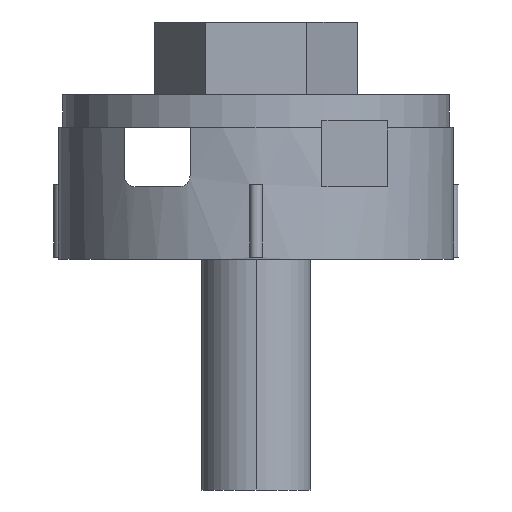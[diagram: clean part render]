
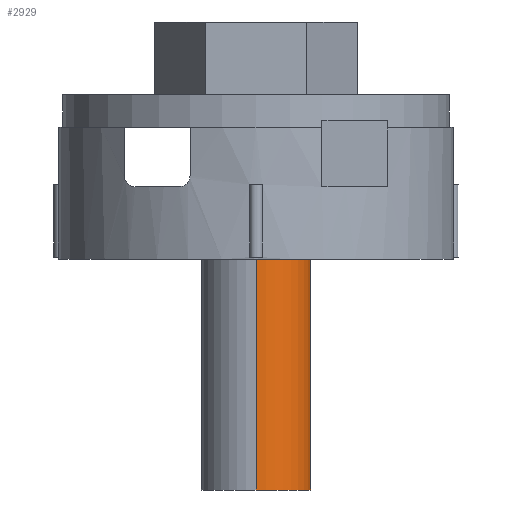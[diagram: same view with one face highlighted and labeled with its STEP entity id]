
A CAD part, front view. The second image highlights one B-rep face of the part: STEP entity #2929.
In plain terms, the highlighted cylindrical face has radius 2.5 mm (diameter 5 mm), a partial arc.
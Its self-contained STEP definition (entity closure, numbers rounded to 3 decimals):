
#2858 = ORIENTED_EDGE ( 'NONE', *, *, #2927, .T. ) ;
#2859 = ORIENTED_EDGE ( 'NONE', *, *, #2932, .F. ) ;
#2860 = VERTEX_POINT ( 'NONE', #7548 ) ;
#2861 = VERTEX_POINT ( 'NONE', #7547 ) ;
#2912 = VERTEX_POINT ( 'NONE', #7643 ) ;
#2918 = VERTEX_POINT ( 'NONE', #7689 ) ;
#2919 = EDGE_CURVE ( 'NONE', #2918, #2912, #7688, .T. ) ;
#2921 = EDGE_CURVE ( 'NONE', #2860, #2912, #7683, .T. ) ;
#2925 = ORIENTED_EDGE ( 'NONE', *, *, #2919, .T. ) ;
#2926 = ORIENTED_EDGE ( 'NONE', *, *, #2921, .F. ) ;
#2927 = EDGE_CURVE ( 'NONE', #2861, #2918, #7675, .T. ) ;
#2929 = ADVANCED_FACE ( 'NONE', ( #7670 ), #7669, .T. ) ;
#2930 = EDGE_LOOP ( 'NONE', ( #2859, #2858, #2925, #2926 ) ) ;
#2932 = EDGE_CURVE ( 'NONE', #2861, #2860, #7714, .T. ) ;
#7547 = CARTESIAN_POINT ( 'NONE',  ( 0., -18., -2.5 ) ) ;
#7548 = CARTESIAN_POINT ( 'NONE',  ( 0., -18., 2.5 ) ) ;
#7643 = CARTESIAN_POINT ( 'NONE',  ( 0., 0., 2.5 ) ) ;
#7664 = CARTESIAN_POINT ( 'NONE',  ( 0., -18., 0. ) ) ;
#7665 = DIRECTION ( 'NONE',  ( 0., 0., 1. ) ) ;
#7666 = DIRECTION ( 'NONE',  ( 0., 1., 0. ) ) ;
#7667 = AXIS2_PLACEMENT_3D ( 'NONE', #7668, #7666, #7665 ) ;
#7668 = CARTESIAN_POINT ( 'NONE',  ( 0., -18., 0. ) ) ;
#7669 = CYLINDRICAL_SURFACE ( 'NONE', #7667, 2.5 ) ;
#7670 = FACE_OUTER_BOUND ( 'NONE', #2930, .T. ) ;
#7672 = DIRECTION ( 'NONE',  ( 0., 1., 0. ) ) ;
#7673 = VECTOR ( 'NONE', #7672, 1000. ) ;
#7674 = CARTESIAN_POINT ( 'NONE',  ( 0., -18., -2.5 ) ) ;
#7675 = LINE ( 'NONE', #7674, #7673 ) ;
#7680 = DIRECTION ( 'NONE',  ( 0., 1., 0. ) ) ;
#7681 = VECTOR ( 'NONE', #7680, 1000. ) ;
#7682 = CARTESIAN_POINT ( 'NONE',  ( 0., -18., 2.5 ) ) ;
#7683 = LINE ( 'NONE', #7682, #7681 ) ;
#7684 = DIRECTION ( 'NONE',  ( 0., 0., 1. ) ) ;
#7685 = DIRECTION ( 'NONE',  ( 0., -1., 0. ) ) ;
#7686 = CARTESIAN_POINT ( 'NONE',  ( 0., 0., 0. ) ) ;
#7687 = AXIS2_PLACEMENT_3D ( 'NONE', #7686, #7685, #7684 ) ;
#7688 = CIRCLE ( 'NONE', #7687, 2.5 ) ;
#7689 = CARTESIAN_POINT ( 'NONE',  ( 0., 0., -2.5 ) ) ;
#7711 = DIRECTION ( 'NONE',  ( 0., 0., -1. ) ) ;
#7712 = DIRECTION ( 'NONE',  ( 0., -1., 0. ) ) ;
#7713 = AXIS2_PLACEMENT_3D ( 'NONE', #7664, #7712, #7711 ) ;
#7714 = CIRCLE ( 'NONE', #7713, 2.5 ) ;
